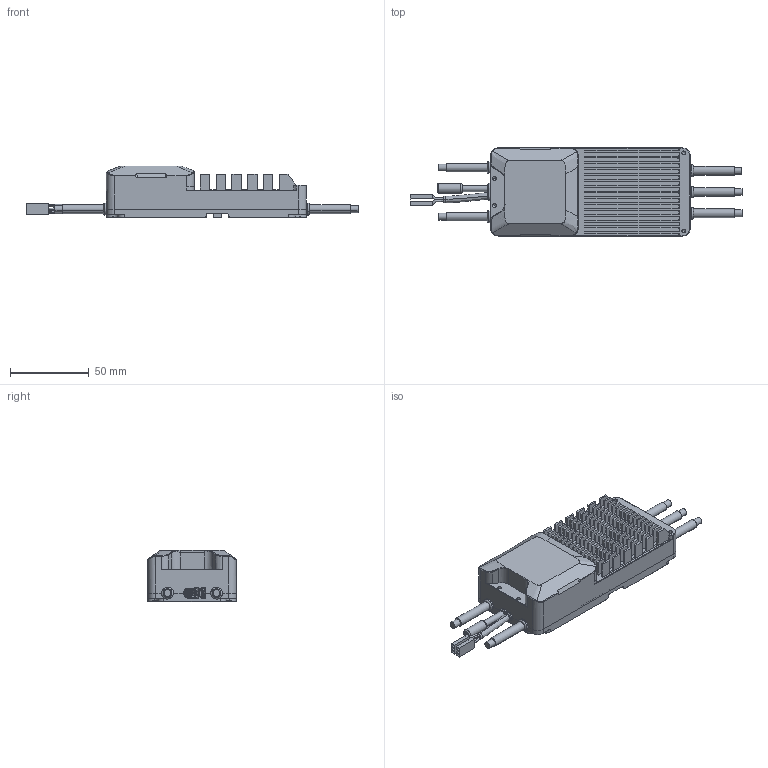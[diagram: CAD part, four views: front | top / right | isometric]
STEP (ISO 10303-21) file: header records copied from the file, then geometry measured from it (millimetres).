
FILE_DESCRIPTION (( 'STEP AP214' ), '1' );
FILE_NAME ('V-200A-14S.STEP', '2024-09-11T03:46:17', ( '' ), ( '' ), 'SwSTEP 2.0', 'SolidWorks 2022', '' );
FILE_SCHEMA (( 'AUTOMOTIVE_DESIGN' ));
Length unit declared in the file: millimetre
Products named in the file (11): 信号线; FOC180A外壳线槽 （按镭射修改版）; 编码器线; FOC180A外壳上盖（按镭射修改版）; 10AWG（线径5; V-200A-14S; 5.6mm电源负极10AWG; 信号线，编码器线（4mm）护线圈; 5.6mm电源正极10AWG; FOC180A外壳下盖（按镭射修改版）; 5.6mm三项10AWG
Assembly tree (16 placements, depth 2):
  V-200A-14S
    FOC180A外壳上盖（按镭射修改版）
    FOC180A外壳下盖（按镭射修改版）
    FOC180A外壳线槽 （按镭射修改版）
    10AWG（线径5  x5
    信号线，编码器线（4mm）护线圈
    5.6mm三项10AWG  x3
    5.6mm电源负极10AWG
    5.6mm电源正极10AWG
    编码器线
    信号线
Bounding box: 210.94 x 56 x 32.78 mm (x, y, z)
Volume: 54257.4 mm3; surface area: 77248 mm2
Topology: 21 solids, 21 shells, 1559 faces, 4184 edges, 2700 vertices
Faces by surface type: plane 907, cylinder 482, cone 92, bspline 50, torus 28
Entity records: 53253 total; most frequent: CARTESIAN_POINT 14438, ORIENTED_EDGE 8040, DIRECTION 7682, EDGE_CURVE 4020, VECTOR 2812, LINE 2812, VERTEX_POINT 2612, AXIS2_PLACEMENT_3D 2435
